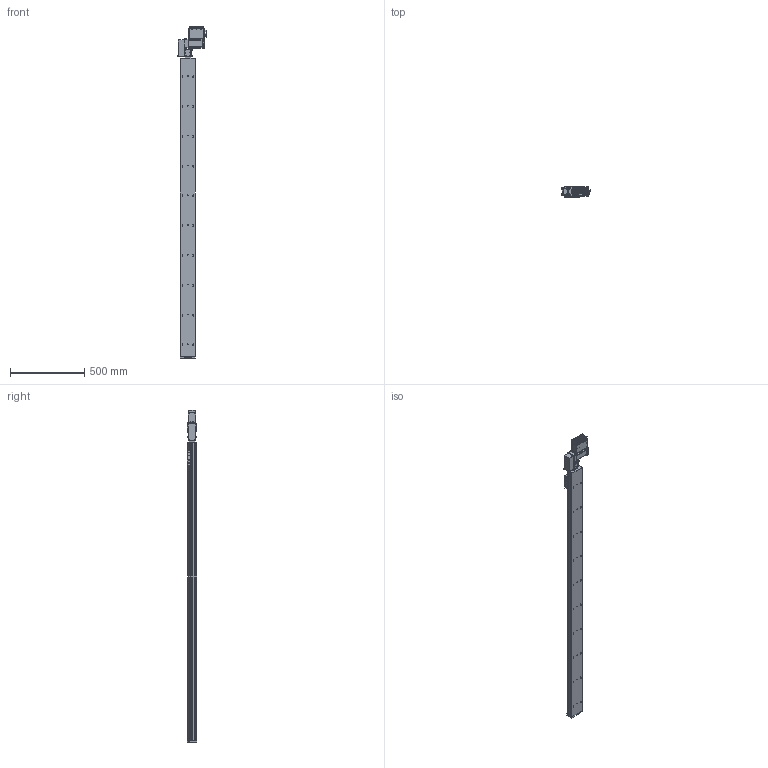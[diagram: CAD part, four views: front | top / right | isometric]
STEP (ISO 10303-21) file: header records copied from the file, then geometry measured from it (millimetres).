
FILE_DESCRIPTION (( 'STEP AP203' ), '1' );
FILE_NAME ('S10 TBN LH S2000.STEP', '2012-06-18T09:51:17', ( 'Conseil Régional Haute-Normandie' ), ( 'Conseil Régional Haute-Normandie' ), 'SwSTEP 2.0', 'SolidWorks 2010', '' );
FILE_SCHEMA (( 'CONFIG_CONTROL_DESIGN' ));
Length unit declared in the file: millimetre
Products named in the file (29): Colonnette_3; BU45 Carte d''axe A11_5; Connecteur rond D12 4cts_5; T_X2_00F4_X0_le lat_X2_00E9_X0_rale_5; S10 TBN LH S2000; cache t皻e axe_Default; cache t皻e_Default; Cvis M5 L30_Default; embout; palette tbn; plaque de bout s10_Default; Plaque racord_Default; renvoi LH_Default; vis M5 L12_Default; Vis M5 L16-2_Default_1; vis M5 L5_Default; Assem1_7; T_X2_00F4_X0_le contre le moteur_5; BU41 Carte Alimentation P05_3; Moteur 60BLDC90A_3; Couvercle_3; T_X2_00F4_X0_le fond_3; Connecteur rond D10 3cts_5; Sub D 9cts 90_X2_00B_X0__3; Radiateur profil_X2_00E9_X0_ 100x25_3; Colonnette ronde_3; T_X2_00F4_X0_le Arri_X2_00E8_X0_re_5; Vis TF 3 torkx_1_1; axe 2000
Assembly tree (62 placements, depth 3):
  S10 TBN LH S2000
    palette tbn
    embout
    plaque de bout s10_Default
    vis M5 L12_Default  x4
    Vis M5 L16-2_Default_1  x4
    vis M5 L5_Default  x4
    Plaque racord_Default
    renvoi LH_Default
    Assem1_7
      Vis TF 3 torkx_1_1  x21
      BU41 Carte Alimentation P05_3
      Sub D 9cts 90_X2_00B_X0__3
      Radiateur profil_X2_00E9_X0_ 100x25_3
      BU45 Carte d''axe A11_5
      Couvercle_3
      T_X2_00F4_X0_le Arri_X2_00E8_X0_re_5
      T_X2_00F4_X0_le lat_X2_00E9_X0_rale_5  x2
      Colonnette ronde_3
      Colonnette_3  x2
      T_X2_00F4_X0_le fond_3
      Moteur 60BLDC90A_3
      Connecteur rond D10 3cts_5  x2
      T_X2_00F4_X0_le contre le moteur_5
      Connecteur rond D12 4cts_5
    Cvis M5 L30_Default  x2
    cache t皻e_Default  x2
    cache t皻e axe_Default
    axe 2000
Bounding box: 189.8 x 66.75 x 2228.74 mm (x, y, z)
Volume: 11218474 mm3; surface area: 1257980.5 mm2
Topology: 61 solids, 61 shells, 2353 faces, 5826 edges, 3755 vertices
Faces by surface type: plane 1110, cylinder 1018, cone 182, bspline 40, torus 3
Entity records: 49243 total; most frequent: CARTESIAN_POINT 8864, DIRECTION 7989, ORIENTED_EDGE 7232, EDGE_CURVE 3616, AXIS2_PLACEMENT_3D 2979, VERTEX_POINT 2359, VECTOR 2031, LINE 2031
